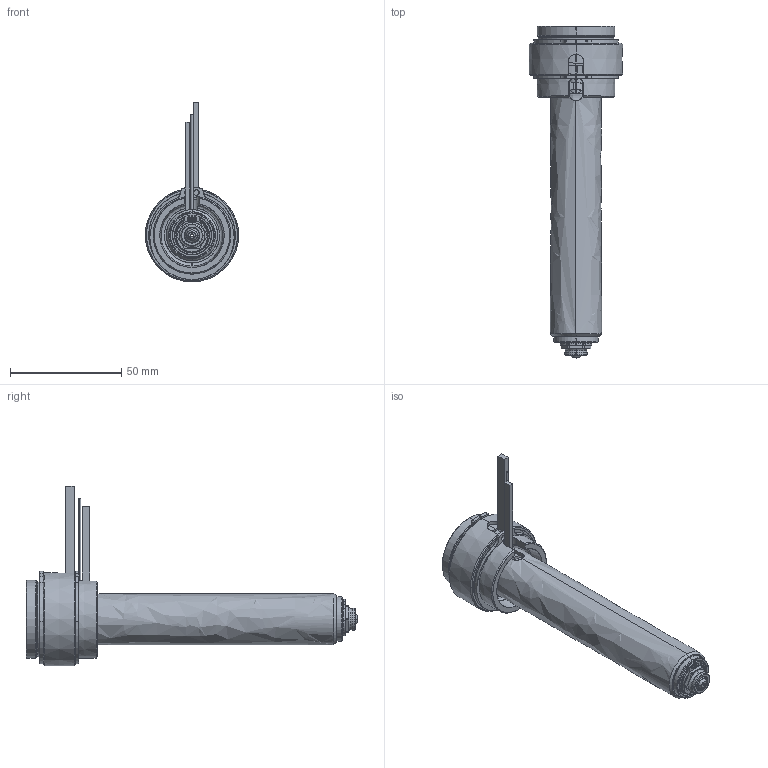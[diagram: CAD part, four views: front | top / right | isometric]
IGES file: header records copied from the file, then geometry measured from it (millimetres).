
Start section: SolidWorks IGES file using analytic representation for surfaces
Global section: file name: C:\Documents and Settings\ws-20\Desktop\TEM\UGER3553-S-A-1 [Øb-1.30  ØC-7.0].IGS; native system: SolidWorks 2012; preprocessor: SolidWorks 2012; author: ws-20; date: 120410.101212; units: millimetre
Bounding box: 42 x 149.4 x 80.9 mm (x, y, z)
Surface area: 37825.6 mm2 (no closed solid volume)
Topology: 0 solids, 0 shells, 207 faces, 3578 edges, 3578 vertices
Faces by surface type: revolution 132, bspline 75
